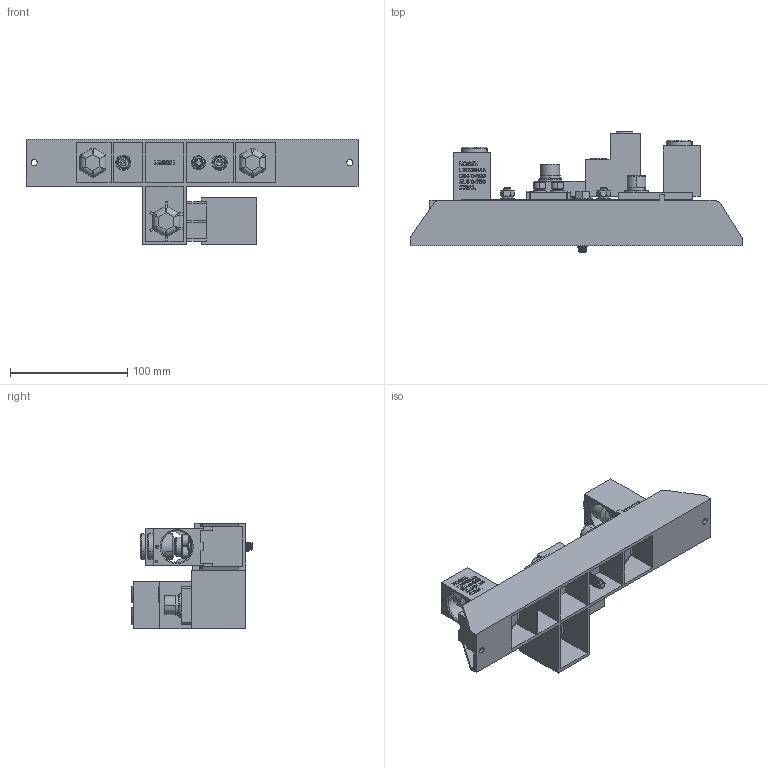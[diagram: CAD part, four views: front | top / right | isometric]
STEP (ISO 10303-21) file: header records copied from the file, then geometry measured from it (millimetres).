
FILE_DESCRIPTION((''),'2;1');
FILE_NAME('6623X1603_ASM','2023-06-01T11:05:15',('ganxw'),(''),'CREO PARAMETRIC BY PTC INC, 2020044','CREO PARAMETRIC BY PTC INC, 2020044','');
FILE_SCHEMA(('CONFIG_CONTROL_DESIGN','SHAPE_APPEARANCE_LAYERS_GROUPS'));
Products named in the file (22): 8754X1603; 8580X1605; 8580X1606; 8574M0726112; 8900M0312103-1; SP050040; SP050025; SP040194; SP030370; SP030367; 8574M0726111; 8900M0312003; 8900M0312119; 8580X1614; SP050045; SP050348; SP040826; SP110816; SP110886; SP110742; SP040924; 6623X1603_ASM
Assembly tree (36 placements, depth 2):
  6623X1603_ASM
    8754X1603
    8580X1605
    8580X1606
    8574M0726112
    8900M0312103-1  x3
    SP050040  x4
    SP050025  x2
    SP040194  x2
    SP030370  x2
    SP030367  x4
    8574M0726111  x2
    8900M0312003  x2
    8900M0312119  x2
    8580X1614
    SP050045
    SP050348
    SP040826
    SP110816  x2
    SP110886
    SP110742
    SP040924
Bounding box: 283 x 102.45 x 90 mm (x, y, z)
Volume: 360430.5 mm3; surface area: 209095.4 mm2
Topology: 39 solids, 50 shells, 4132 faces, 11290 edges, 7427 vertices
Faces by surface type: plane 3286, cylinder 380, cone 272, bspline 119, extrusion 49, torus 26
Entity records: 136517 total; most frequent: CARTESIAN_POINT 46137, ORIENTED_EDGE 15574, DIRECTION 13072, EDGE_CURVE 7799, VECTOR 6358, LINE 6309, VERTEX_POINT 5138, PRESENTATION_STYLE_ASSIGNMENT 3837
